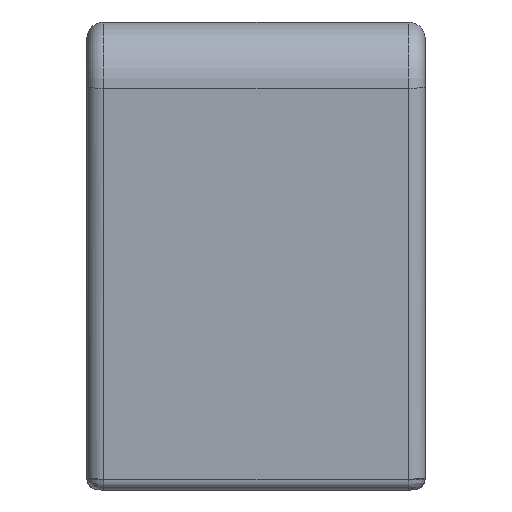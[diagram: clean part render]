
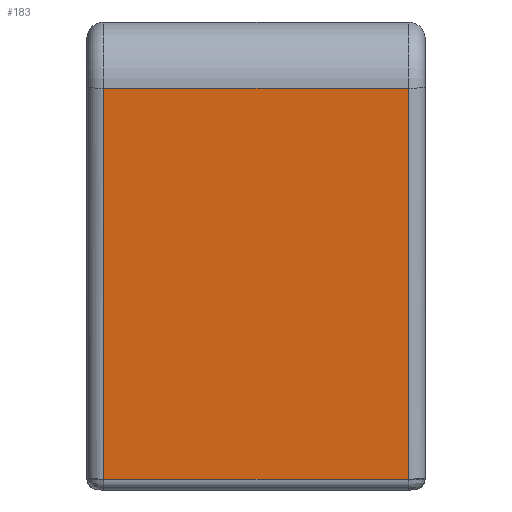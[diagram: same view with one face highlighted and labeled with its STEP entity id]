
A CAD part, left-side view. The second image highlights one B-rep face of the part: STEP entity #183.
In plain terms, the highlighted planar face has unit normal (-0.998, 0, -0.067).
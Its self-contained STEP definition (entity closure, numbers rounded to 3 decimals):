
#27 = EDGE_LOOP ( 'NONE', ( #1577, #1576, #1575, #1574 ) ) ;
#183 = ADVANCED_FACE ( 'NONE', ( #2095 ), #2753, .T. ) ;
#454 = AXIS2_PLACEMENT_3D ( 'NONE', #2750, #2748, #2745 ) ;
#716 = EDGE_CURVE ( 'NONE', #5057, #5074, #2513, .T. ) ;
#717 = EDGE_CURVE ( 'NONE', #5074, #5064, #2515, .T. ) ;
#718 = EDGE_CURVE ( 'NONE', #5064, #5069, #2517, .T. ) ;
#719 = EDGE_CURVE ( 'NONE', #5057, #5069, #2519, .T. ) ;
#1102 = CARTESIAN_POINT ( 'NONE',  ( -240., 13.5, -7. ) ) ;
#1103 = DIRECTION ( 'NONE',  ( 0.067, 0., -0.998 ) ) ;
#1104 = CARTESIAN_POINT ( 'NONE',  ( -240.063, 15., -6.067 ) ) ;
#1105 = DIRECTION ( 'NONE',  ( 0., -1., 0. ) ) ;
#1106 = CARTESIAN_POINT ( 'NONE',  ( -242.388, -13.5, 28.632 ) ) ;
#1107 = DIRECTION ( 'NONE',  ( -0.067, 0., 0.998 ) ) ;
#1108 = CARTESIAN_POINT ( 'NONE',  ( -242.388, 15., 28.632 ) ) ;
#1109 = DIRECTION ( 'NONE',  ( 0., -1., 0. ) ) ;
#1330 = CARTESIAN_POINT ( 'NONE',  ( -242.388, 13.5, 28.632 ) ) ;
#1337 = CARTESIAN_POINT ( 'NONE',  ( -240.063, -13.5, -6.067 ) ) ;
#1342 = CARTESIAN_POINT ( 'NONE',  ( -242.388, -13.5, 28.632 ) ) ;
#1347 = CARTESIAN_POINT ( 'NONE',  ( -240.063, 13.5, -6.067 ) ) ;
#1574 = ORIENTED_EDGE ( 'NONE', *, *, #719, .F. ) ;
#1575 = ORIENTED_EDGE ( 'NONE', *, *, #718, .T. ) ;
#1576 = ORIENTED_EDGE ( 'NONE', *, *, #717, .T. ) ;
#1577 = ORIENTED_EDGE ( 'NONE', *, *, #716, .T. ) ;
#2095 = FACE_OUTER_BOUND ( 'NONE', #27, .T. ) ;
#2513 = LINE ( 'NONE', #1102, #2514 ) ;
#2514 = VECTOR ( 'NONE', #1103, 1000. ) ;
#2515 = LINE ( 'NONE', #1104, #2516 ) ;
#2516 = VECTOR ( 'NONE', #1105, 1000. ) ;
#2517 = LINE ( 'NONE', #1106, #2518 ) ;
#2518 = VECTOR ( 'NONE', #1107, 1000. ) ;
#2519 = LINE ( 'NONE', #1108, #2520 ) ;
#2520 = VECTOR ( 'NONE', #1109, 1000. ) ;
#2745 = DIRECTION ( 'NONE',  ( -0.067, 0., 0.998 ) ) ;
#2748 = DIRECTION ( 'NONE',  ( -0.998, 0., -0.067 ) ) ;
#2750 = CARTESIAN_POINT ( 'NONE',  ( -240., 15., -7. ) ) ;
#2753 = PLANE ( 'NONE',  #454 ) ;
#5057 = VERTEX_POINT ( 'NONE', #1330 ) ;
#5064 = VERTEX_POINT ( 'NONE', #1337 ) ;
#5069 = VERTEX_POINT ( 'NONE', #1342 ) ;
#5074 = VERTEX_POINT ( 'NONE', #1347 ) ;
